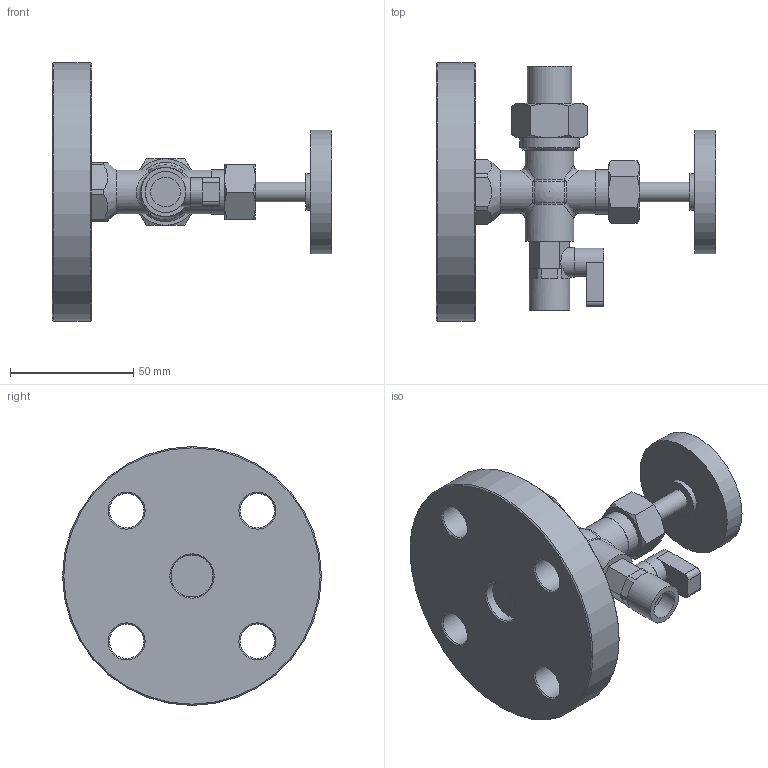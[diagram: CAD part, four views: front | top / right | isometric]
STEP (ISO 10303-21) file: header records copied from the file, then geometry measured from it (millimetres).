
FILE_DESCRIPTION(/* description */ (''),/* implementation_level */ '2;1');
FILE_NAME(/* name */ '586ON-DN20-PN10.stp',/* time_stamp */ '2024-08-17T22:13:01+02:00',/* author */ ('roger.thijssen'),/* organization */ (''),/* preprocessor_version */ 'ST-DEVELOPER v20',/* originating_system */ 'Autodesk Inventor 2024',/* authorisation */ '');
FILE_SCHEMA (('AUTOMOTIVE_DESIGN { 1 0 10303 214 3 1 1 }'));
Length unit declared in the file: millimetre
Products named in the file (1): 586ON-DN20-PN10
Bounding box: 113.5 x 105 x 105 mm (x, y, z)
Volume: 193681.4 mm3; surface area: 42175.9 mm2
Topology: 1 solids, 1 shells, 148 faces, 347 edges, 213 vertices
Faces by surface type: plane 60, cone 37, cylinder 29, sphere 10, torus 8, bspline 4
Full cylindrical faces by diameter (mm): 8 x1, 11.5 x1, 12 x2, 13 x1, 14 x4, 15 x1, 16.5 x1, 17 x1, 17.8 x2, 18 x2, 19.8 x2, 24 x1, 50 x1, 105 x1
Entity records: 4644 total; most frequent: CARTESIAN_POINT 1101, DIRECTION 724, ORIENTED_EDGE 690, EDGE_CURVE 345, AXIS2_PLACEMENT_3D 302, VERTEX_POINT 213, EDGE_LOOP 170, CIRCLE 153
